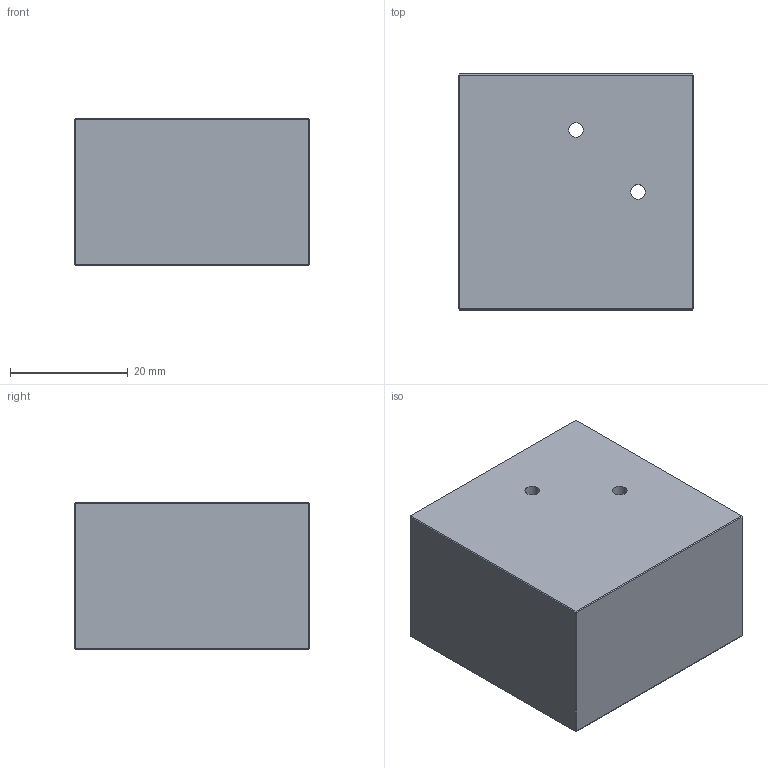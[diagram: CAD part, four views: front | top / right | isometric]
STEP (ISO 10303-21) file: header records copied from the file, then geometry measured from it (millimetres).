
FILE_DESCRIPTION(/* description */ (''),/* implementation_level */ '2;1');
FILE_NAME(/* name */ 'FIT.ELB.M16.4000.stp',/* time_stamp */ '2026-07-09T21:41:08+02:00',/* author */ ('janos'),/* organization */ (''),/* preprocessor_version */ 'ST-DEVELOPER v19.2',/* originating_system */ 'Autodesk Inventor 2024',/* authorisation */ '');
FILE_SCHEMA (('AUTOMOTIVE_DESIGN { 1 0 10303 214 3 1 1 }'));
Length unit declared in the file: millimetre
Products named in the file (1): W.16.1-4.4000
Bounding box: 40 x 40 x 25 mm (x, y, z)
Volume: 35881.8 mm3; surface area: 8492.5 mm2
Topology: 1 solids, 1 shells, 56 faces, 140 edges, 83 vertices
Faces by surface type: plane 28, cylinder 14, cone 8, torus 6
Full cylindrical faces by diameter (mm): 2 x1, 2.5 x4, 3 x1, 14.376 x2
Entity records: 1967 total; most frequent: CARTESIAN_POINT 625, ORIENTED_EDGE 276, DIRECTION 257, EDGE_CURVE 138, AXIS2_PLACEMENT_3D 96, VERTEX_POINT 83, EDGE_LOOP 65, LINE 65
